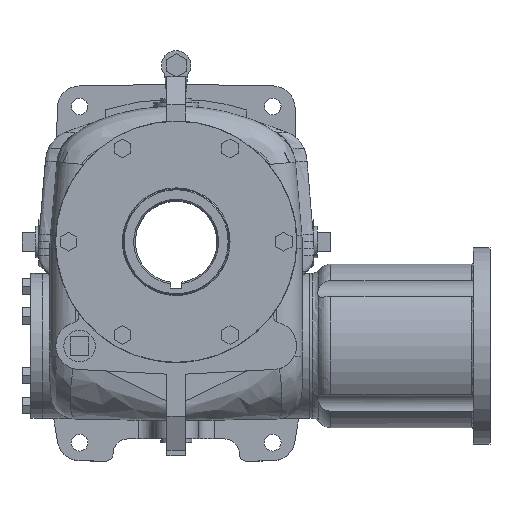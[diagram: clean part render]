
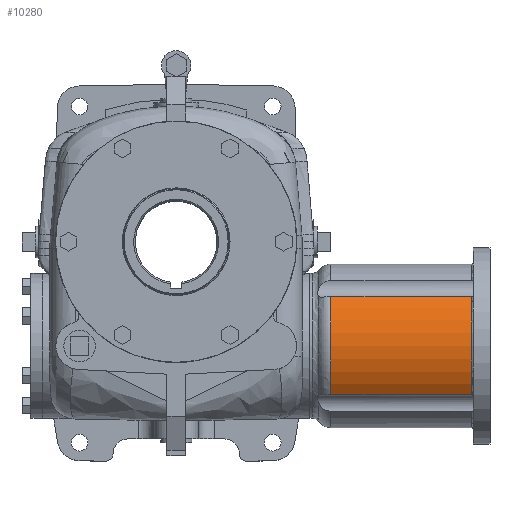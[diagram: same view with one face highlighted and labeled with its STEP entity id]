
A CAD part, top view. The second image highlights one B-rep face of the part: STEP entity #10280.
In plain terms, the highlighted cylindrical face has radius 69.85 mm (diameter 139.7 mm), a partial arc.
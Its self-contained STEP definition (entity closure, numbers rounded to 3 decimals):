
#350=CYLINDRICAL_SURFACE('',#12913,69.85);
#532=CIRCLE('',#12848,69.85);
#533=CIRCLE('',#12850,69.85);
#1210=LINE('',#22382,#2060);
#1211=LINE('',#22383,#2061);
#2060=VECTOR('',#14976,1000.);
#2061=VECTOR('',#14977,1000.);
#4522=ORIENTED_EDGE('',*,*,#6258,.T.);
#4523=ORIENTED_EDGE('',*,*,#6353,.T.);
#4524=ORIENTED_EDGE('',*,*,#6260,.F.);
#4525=ORIENTED_EDGE('',*,*,#6354,.T.);
#6258=EDGE_CURVE('',#7379,#7378,#532,.T.);
#6260=EDGE_CURVE('',#7380,#7381,#533,.T.);
#6353=EDGE_CURVE('',#7378,#7381,#1210,.F.);
#6354=EDGE_CURVE('',#7380,#7379,#1211,.T.);
#7378=VERTEX_POINT('',#21975);
#7379=VERTEX_POINT('',#21977);
#7380=VERTEX_POINT('',#21985);
#7381=VERTEX_POINT('',#21986);
#8480=EDGE_LOOP('',(#4522,#4523,#4524,#4525));
#9262=FACE_BOUND('',#8480,.T.);
#10280=ADVANCED_FACE('',(#9262),#350,.T.);
#12848=AXIS2_PLACEMENT_3D('',#21976,#14826,#14827);
#12850=AXIS2_PLACEMENT_3D('',#21984,#14830,#14831);
#12913=AXIS2_PLACEMENT_3D('',#22381,#14974,#14975);
#14826=DIRECTION('',(-1.,0.,0.));
#14827=DIRECTION('',(0.,0.,1.));
#14830=DIRECTION('',(-1.,0.,0.));
#14831=DIRECTION('',(0.,0.,1.));
#14974=DIRECTION('',(-1.,0.,0.));
#14975=DIRECTION('',(0.,0.,1.));
#14976=DIRECTION('',(1.,0.,0.));
#14977=DIRECTION('',(1.,0.,0.));
#21975=CARTESIAN_POINT('',(138.24,42.007,55.807));
#21976=CARTESIAN_POINT('',(138.24,0.,0.));
#21977=CARTESIAN_POINT('',(138.24,-42.007,55.807));
#21984=CARTESIAN_POINT('',(17.904,0.,0.));
#21985=CARTESIAN_POINT('',(17.904,-42.007,55.807));
#21986=CARTESIAN_POINT('',(17.904,42.007,55.807));
#22381=CARTESIAN_POINT('',(-60.008,0.,0.));
#22382=CARTESIAN_POINT('',(52.451,42.007,55.807));
#22383=CARTESIAN_POINT('',(52.451,-42.007,55.807));
